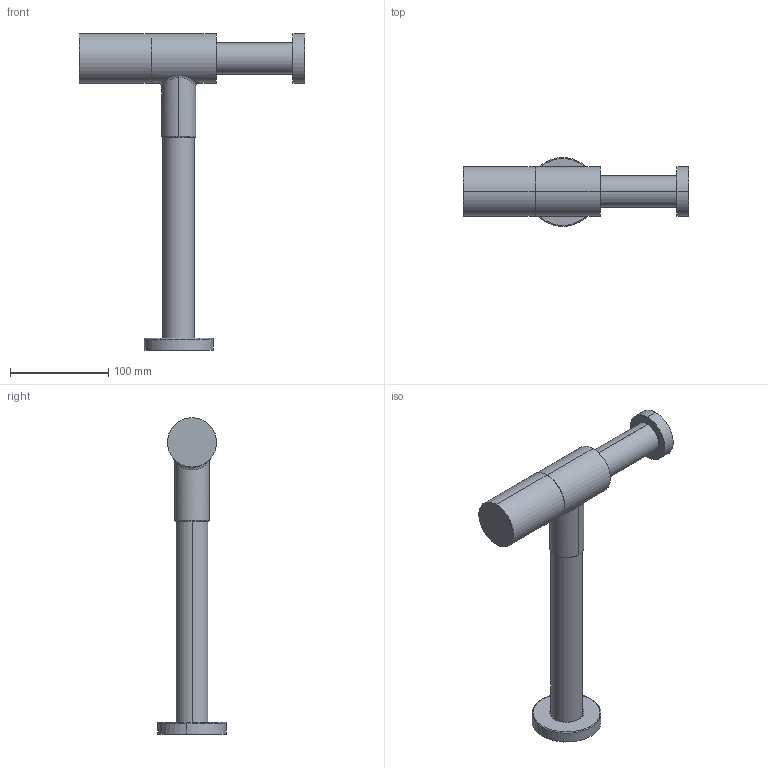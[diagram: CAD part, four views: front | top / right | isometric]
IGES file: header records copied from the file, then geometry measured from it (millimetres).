
Global section: file name: No Iges File Name specified; native system: Autodesk Inventor 2011; preprocessor: AutoDesk Inventor Iges Exporter R2011; author: UTR03; date: 20121127.082315; units: millimetre
Bounding box: 229.1 x 70 x 321.32 mm (x, y, z)
Volume: 556561.2 mm3; surface area: 82973.1 mm2
Topology: 1 solids, 1 shells, 49 faces, 106 edges, 70 vertices
Faces by surface type: cylinder 18, plane 14, revolution 8, torus 6, bspline 3
